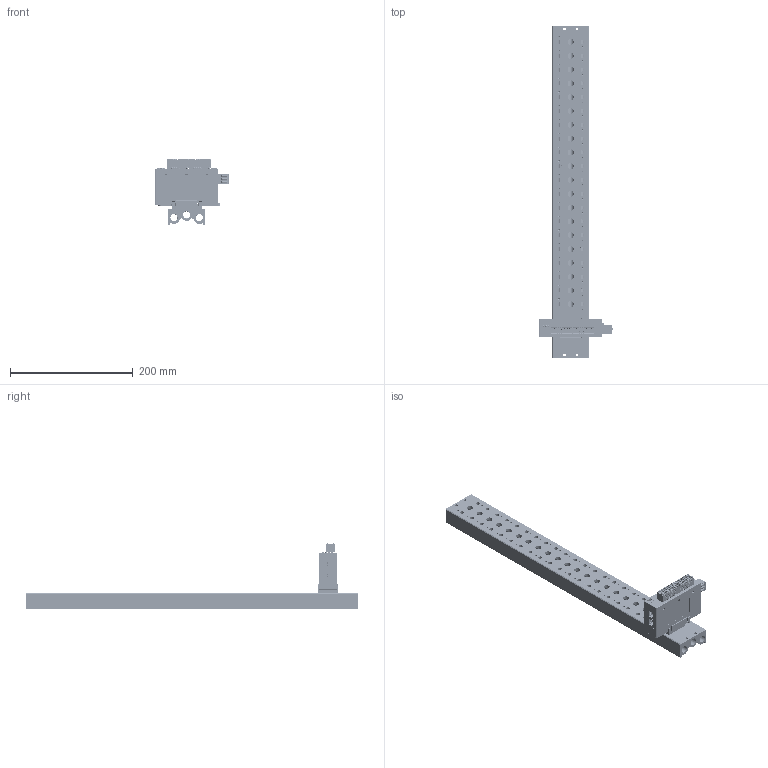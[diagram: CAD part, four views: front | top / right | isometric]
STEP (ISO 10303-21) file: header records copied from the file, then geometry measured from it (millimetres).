
FILE_DESCRIPTION(/* description */ (''),/* implementation_level */ '2;1');
FILE_NAME(/* name */ '',/* time_stamp */ '2025-10-09T16:52:21+08:00',/* author */ (''),/* organization */ (''),/* preprocessor_version */ 'ST-DEVELOPER v14',/* originating_system */ 'SIEMENS PLM Software NX 8.0',/* authorisation */ '');
FILE_SCHEMA (('AP203_CONFIGURATION_CONTROLLED_3D_DESIGN_OF_MECHANICAL_PARTS_AND_ASSEMBLIES_MIM_LF { 1 0 10303 403 2 1 2}'));
Products named in the file (1): DELL3E5857E9udr8
Bounding box: 119.8 x 541 x 108.48 mm (x, y, z)
Volume: 692333.6 mm3; surface area: 228889.8 mm2
Topology: 2 solids, 228 shells, 9874 faces, 26155 edges, 17038 vertices
Faces by surface type: plane 6422, cylinder 2335, torus 336, bspline 328, cone 268, sphere 95, extrusion 90
Full cylindrical faces by diameter (mm): 0.18 x2, 2.5 x44, 3.05 x40, 3.3 x3, 3.5 x4, 4 x3, 4.5 x4, 6 x4, 6.5 x40, 10 x20, 11.492 x2, 11.5 x5, 11.8 x6
Entity records: 325926 total; most frequent: CARTESIAN_POINT 83193, ORIENTED_EDGE 50904, DIRECTION 48596, EDGE_CURVE 25452, VECTOR 18096, LINE 18006, VERTEX_POINT 16847, AXIS2_PLACEMENT_3D 15250
